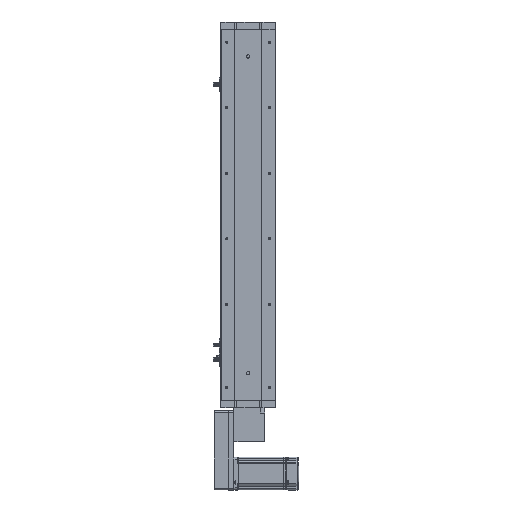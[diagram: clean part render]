
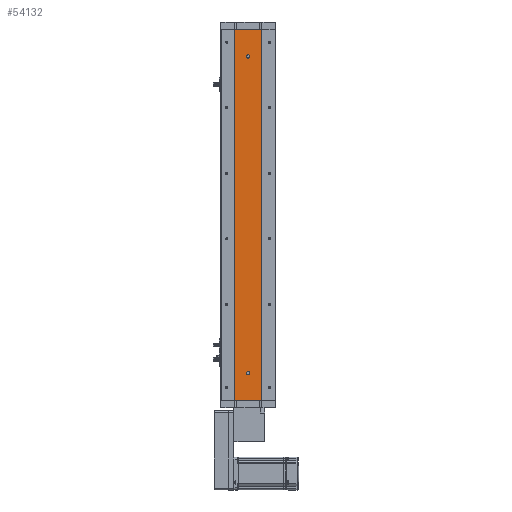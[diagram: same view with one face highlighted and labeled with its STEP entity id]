
A CAD part, left-side view. The second image highlights one B-rep face of the part: STEP entity #54132.
In plain terms, the highlighted planar face has unit normal (-1, 0, 0).
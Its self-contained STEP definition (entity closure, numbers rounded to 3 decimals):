
#379 = EDGE_CURVE ( 'NONE', #5479, #26353, #45141, .T. ) ;
#850 = DIRECTION ( 'NONE',  ( -1., 0., 0. ) ) ;
#1942 = EDGE_LOOP ( 'NONE', ( #38981, #8010 ) ) ;
#4008 = DIRECTION ( 'NONE',  ( 0., 0., 1. ) ) ;
#4337 = DIRECTION ( 'NONE',  ( 0., -1., 0. ) ) ;
#4469 = EDGE_CURVE ( 'NONE', #26353, #5479, #22252, .T. ) ;
#4537 = CARTESIAN_POINT ( 'NONE',  ( -18.926, 0., 47. ) ) ;
#4561 = CARTESIAN_POINT ( 'NONE',  ( -18.926, 0., 627. ) ) ;
#4862 = CARTESIAN_POINT ( 'NONE',  ( -18.926, 24.785, 680. ) ) ;
#4924 = LINE ( 'NONE', #15040, #31408 ) ;
#5479 = VERTEX_POINT ( 'NONE', #59205 ) ;
#6174 = LINE ( 'NONE', #27880, #26436 ) ;
#6540 = VERTEX_POINT ( 'NONE', #34670 ) ;
#8010 = ORIENTED_EDGE ( 'NONE', *, *, #10434, .F. ) ;
#8410 = EDGE_LOOP ( 'NONE', ( #9507, #44287 ) ) ;
#9507 = ORIENTED_EDGE ( 'NONE', *, *, #379, .F. ) ;
#10434 = EDGE_CURVE ( 'NONE', #63119, #61177, #61259, .T. ) ;
#10485 = VECTOR ( 'NONE', #4337, 1000. ) ;
#12317 = FACE_BOUND ( 'NONE', #8410, .T. ) ;
#12841 = AXIS2_PLACEMENT_3D ( 'NONE', #58541, #28741, #63615 ) ;
#15040 = CARTESIAN_POINT ( 'NONE',  ( -18.926, -24.785, 680. ) ) ;
#15192 = CARTESIAN_POINT ( 'NONE',  ( -18.926, 0., 50. ) ) ;
#18260 = DIRECTION ( 'NONE',  ( -1., 0., 0. ) ) ;
#19071 = AXIS2_PLACEMENT_3D ( 'NONE', #48090, #18260, #53106 ) ;
#20198 = DIRECTION ( 'NONE',  ( 0., 0., 1. ) ) ;
#22252 = CIRCLE ( 'NONE', #58687, 3. ) ;
#22490 = LINE ( 'NONE', #24034, #54431 ) ;
#23040 = CARTESIAN_POINT ( 'NONE',  ( -18.926, 24.785, 0. ) ) ;
#23455 = VERTEX_POINT ( 'NONE', #23040 ) ;
#24034 = CARTESIAN_POINT ( 'NONE',  ( -18.926, 24.785, 0. ) ) ;
#26353 = VERTEX_POINT ( 'NONE', #4537 ) ;
#26436 = VECTOR ( 'NONE', #32834, 1000. ) ;
#27810 = CIRCLE ( 'NONE', #19071, 3. ) ;
#27880 = CARTESIAN_POINT ( 'NONE',  ( -18.926, 24.785, 680. ) ) ;
#28741 = DIRECTION ( 'NONE',  ( 1., 0., 0. ) ) ;
#29047 = DIRECTION ( 'NONE',  ( 0., -1., 0. ) ) ;
#29857 = DIRECTION ( 'NONE',  ( 0., 0., -1. ) ) ;
#30697 = CARTESIAN_POINT ( 'NONE',  ( -18.926, 0., 630. ) ) ;
#30852 = EDGE_CURVE ( 'NONE', #23455, #60274, #22490, .T. ) ;
#31384 = EDGE_CURVE ( 'NONE', #61177, #63119, #27810, .T. ) ;
#31408 = VECTOR ( 'NONE', #29857, 1000. ) ;
#32834 = DIRECTION ( 'NONE',  ( 0., 0., -1. ) ) ;
#33813 = DIRECTION ( 'NONE',  ( -1., 0., 0. ) ) ;
#34123 = CARTESIAN_POINT ( 'NONE',  ( -18.926, 24.785, 680. ) ) ;
#34670 = CARTESIAN_POINT ( 'NONE',  ( -18.926, -24.785, 680. ) ) ;
#35654 = DIRECTION ( 'NONE',  ( 0., 0., 1. ) ) ;
#35679 = ORIENTED_EDGE ( 'NONE', *, *, #54085, .T. ) ;
#38981 = ORIENTED_EDGE ( 'NONE', *, *, #31384, .F. ) ;
#40515 = ORIENTED_EDGE ( 'NONE', *, *, #30852, .T. ) ;
#41437 = CARTESIAN_POINT ( 'NONE',  ( -18.926, -24.785, 0. ) ) ;
#44287 = ORIENTED_EDGE ( 'NONE', *, *, #4469, .F. ) ;
#45141 = CIRCLE ( 'NONE', #57082, 3. ) ;
#45663 = EDGE_CURVE ( 'NONE', #6540, #60274, #4924, .T. ) ;
#47092 = ORIENTED_EDGE ( 'NONE', *, *, #61072, .F. ) ;
#48090 = CARTESIAN_POINT ( 'NONE',  ( -18.926, 0., 630. ) ) ;
#48910 = FACE_OUTER_BOUND ( 'NONE', #54225, .T. ) ;
#48992 = AXIS2_PLACEMENT_3D ( 'NONE', #30697, #850, #35654 ) ;
#50020 = DIRECTION ( 'NONE',  ( -1., 0., 0. ) ) ;
#53106 = DIRECTION ( 'NONE',  ( 0., 0., 1. ) ) ;
#53286 = LINE ( 'NONE', #34123, #10485 ) ;
#53317 = VERTEX_POINT ( 'NONE', #4862 ) ;
#54085 = EDGE_CURVE ( 'NONE', #53317, #23455, #6174, .T. ) ;
#54132 = ADVANCED_FACE ( 'NONE', ( #12317, #62191, #48910 ), #63391, .F. ) ;
#54225 = EDGE_LOOP ( 'NONE', ( #40515, #60514, #47092, #35679 ) ) ;
#54431 = VECTOR ( 'NONE', #29047, 1000. ) ;
#54873 = CARTESIAN_POINT ( 'NONE',  ( -18.926, 0., 633. ) ) ;
#57082 = AXIS2_PLACEMENT_3D ( 'NONE', #15192, #50020, #20198 ) ;
#58541 = CARTESIAN_POINT ( 'NONE',  ( -18.926, 24.785, 680. ) ) ;
#58687 = AXIS2_PLACEMENT_3D ( 'NONE', #63730, #33813, #4008 ) ;
#59205 = CARTESIAN_POINT ( 'NONE',  ( -18.926, 0., 53. ) ) ;
#60274 = VERTEX_POINT ( 'NONE', #41437 ) ;
#60514 = ORIENTED_EDGE ( 'NONE', *, *, #45663, .F. ) ;
#61072 = EDGE_CURVE ( 'NONE', #53317, #6540, #53286, .T. ) ;
#61177 = VERTEX_POINT ( 'NONE', #54873 ) ;
#61259 = CIRCLE ( 'NONE', #48992, 3. ) ;
#62191 = FACE_BOUND ( 'NONE', #1942, .T. ) ;
#63119 = VERTEX_POINT ( 'NONE', #4561 ) ;
#63391 = PLANE ( 'NONE',  #12841 ) ;
#63615 = DIRECTION ( 'NONE',  ( 0., 0., -1. ) ) ;
#63730 = CARTESIAN_POINT ( 'NONE',  ( -18.926, 0., 50. ) ) ;
